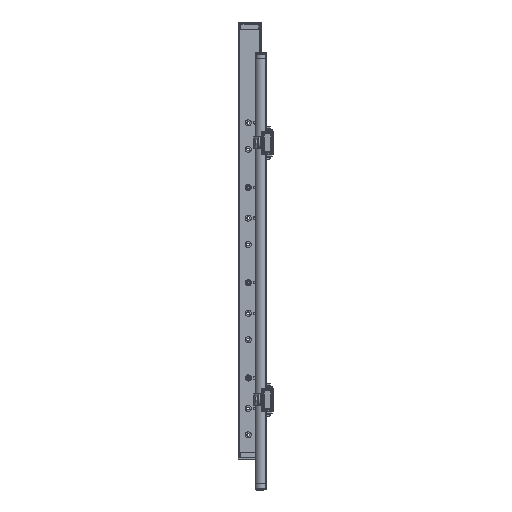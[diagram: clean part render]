
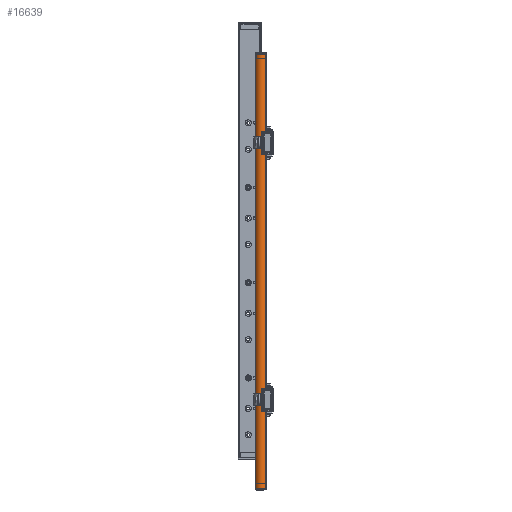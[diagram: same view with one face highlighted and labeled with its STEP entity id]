
A CAD part, left-side view. The second image highlights one B-rep face of the part: STEP entity #16639.
In plain terms, the highlighted cylindrical face has radius 15 mm (diameter 30 mm), a full revolution.
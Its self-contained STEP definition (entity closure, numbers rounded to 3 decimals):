
#798=CYLINDRICAL_SURFACE('',#18262,15.);
#1867=FACE_OUTER_BOUND('',#2973,.T.);
#2973=EDGE_LOOP('',(#15098,#15099,#15100,#15101));
#3503=CIRCLE('',#18263,15.);
#3504=CIRCLE('',#18264,15.);
#5231=LINE('',#27526,#6964);
#6964=VECTOR('',#22670,15.);
#8442=VERTEX_POINT('',#27523);
#8443=VERTEX_POINT('',#27525);
#10671=EDGE_CURVE('',#8442,#8442,#3503,.T.);
#10672=EDGE_CURVE('',#8442,#8443,#5231,.T.);
#10673=EDGE_CURVE('',#8443,#8443,#3504,.T.);
#15098=ORIENTED_EDGE('',*,*,#10671,.F.);
#15099=ORIENTED_EDGE('',*,*,#10672,.T.);
#15100=ORIENTED_EDGE('',*,*,#10673,.T.);
#15101=ORIENTED_EDGE('',*,*,#10672,.F.);
#16639=ADVANCED_FACE('',(#1867),#798,.T.);
#18262=AXIS2_PLACEMENT_3D('',#27522,#22666,#22667);
#18263=AXIS2_PLACEMENT_3D('',#27524,#22668,#22669);
#18264=AXIS2_PLACEMENT_3D('',#27527,#22671,#22672);
#22666=DIRECTION('center_axis',(0.,0.,1.));
#22667=DIRECTION('ref_axis',(1.,0.,0.));
#22668=DIRECTION('center_axis',(0.,0.,1.));
#22669=DIRECTION('ref_axis',(1.,0.,0.));
#22670=DIRECTION('',(0.,0.,-1.));
#22671=DIRECTION('center_axis',(0.,0.,1.));
#22672=DIRECTION('ref_axis',(1.,0.,0.));
#27522=CARTESIAN_POINT('Origin',(0.,0.,0.));
#27523=CARTESIAN_POINT('',(-15.,0.,1140.));
#27524=CARTESIAN_POINT('Origin',(0.,0.,1140.));
#27525=CARTESIAN_POINT('',(-15.,0.,0.));
#27526=CARTESIAN_POINT('',(-15.,0.,0.));
#27527=CARTESIAN_POINT('Origin',(0.,0.,0.));
